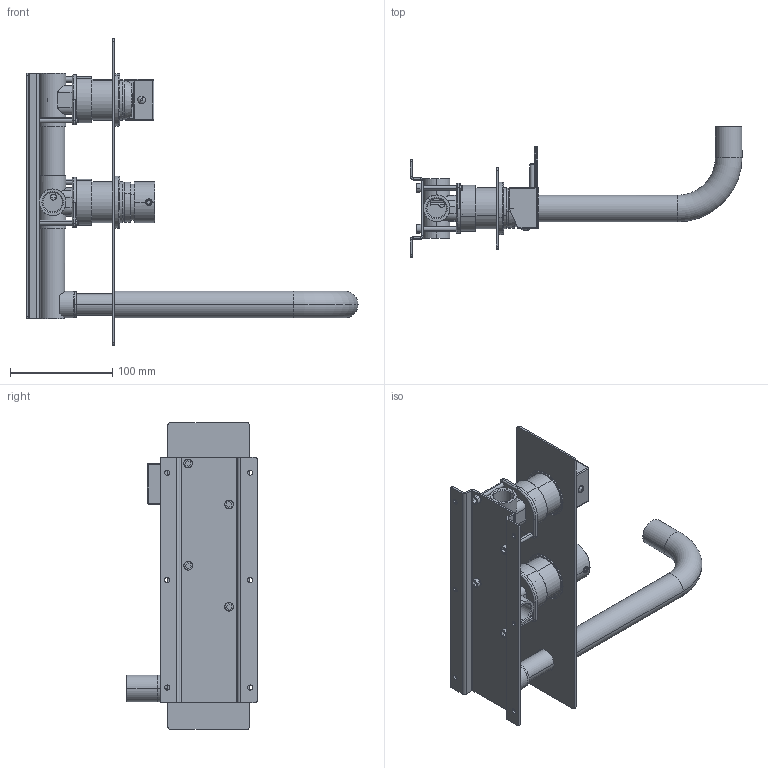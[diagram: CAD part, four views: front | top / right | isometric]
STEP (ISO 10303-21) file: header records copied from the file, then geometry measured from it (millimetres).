
FILE_DESCRIPTION (( 'STEP AP203' ), '1' );
FILE_NAME ('FRN82.STEP', '2024-01-26T13:09:12', ( '' ), ( '' ), 'SwSTEP 2.0', 'SolidWorks 2023', '' );
FILE_SCHEMA (( 'CONFIG_CONTROL_DESIGN' ));
Length unit declared in the file: millimetre
Products named in the file (32): AS757_00; C18.14.0006; C12.00.0017; C25.2662.00; TUBO DI GIUNZIONE VASCA E DOCCIA; C10.00.0011; C25.1964.00.0; C24.1992.00.0; 1000; C39.00.0033; 1174; ADATTATORE MEZZO; C11.14.0009; C24.1966.00.0; CAPP_0; C24.1965.00.0; C24.2119.00.0; EROGATORE VASCA E DOCCIA; C25.1173.00.0; C24.1993.00.0; IST80; 1174G; C12.00.0035; 405-40CPA GEDA; C12.00.0008; VITETC5x40; C10.00.0015; C47.00.0015; C47.00.0023.01; C23.1878.01; FRN82; C11.14.0007
Assembly tree (40 placements, depth 4):
  FRN82
    IST80
      405-40CPA GEDA
        1174G
        EROGATORE VASCA E DOCCIA
        TUBO DI GIUNZIONE VASCA E DOCCIA
        1174
        ADATTATORE MEZZO
      C24.1966.00.0
      C25.1964.00.0
      C24.1965.00.0  x2
      C12.00.0008
      C12.00.0017  x2
      1000  x2
      C47.00.0015  x2
      C10.00.0015
      C10.00.0011
      VITETC5x40  x4
      C24.1993.00.0
      CAPP_0
    C39.00.0033
    AS757_00
      C24.1992.00.0
      C25.1173.00.0
      C23.1878.01
      C11.14.0009
      C11.14.0007
      C47.00.0023.01
    C25.2662.00
    C12.00.0035  x2
    C24.2119.00.0  x2
    C18.14.0006
Bounding box: 324.5 x 127.5 x 300 mm (x, y, z)
Volume: 476534.2 mm3; surface area: 308666.7 mm2
Topology: 42 solids, 43 shells, 1506 faces, 3518 edges, 2192 vertices
Faces by surface type: plane 619, cylinder 566, cone 189, torus 124, bspline 6, sphere 2
Entity records: 39314 total; most frequent: CARTESIAN_POINT 7657, DIRECTION 6338, ORIENTED_EDGE 5486, EDGE_CURVE 2743, AXIS2_PLACEMENT_3D 2503, VERTEX_POINT 1712, EDGE_LOOP 1371, LINE 1332
